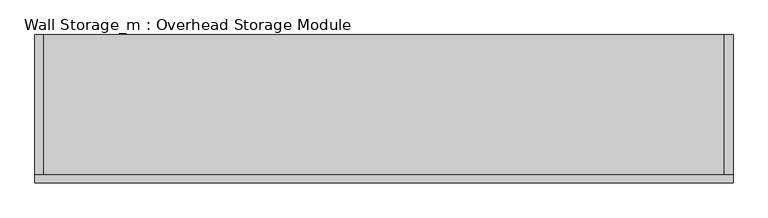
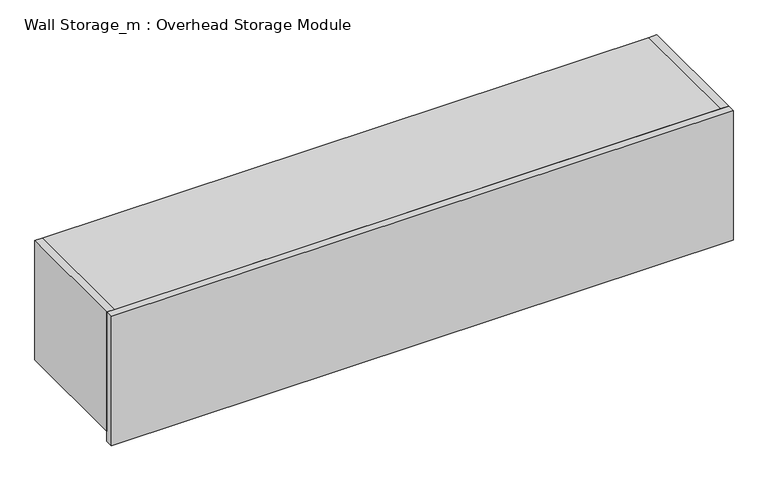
"""IFC4 building model written with IfcOpenShell, lengths in millimetres: furniture geometry, Wall Storage_m : Overhead Storage Module."""

import ifcopenshell
import ifcopenshell.guid

model = None  # the IFC model being written
_history = None  # IfcOwnerHistory: only IFC2X3 demands one
_inside = {}  # id of a spatial element -> (the spatial element, [elements in it])
_under = {}  # id of a project, library or spatial element -> (it, [spatial elements below it])
_declared = {}  # id of a project -> (the project, [libraries it declares])
_typed = {}  # id of a type object -> (the type object, [elements of that type])
_made_of = {}  # id of a material, layer set ... -> (it, [elements and type objects made of it])


def new_model(schema):
    """Start an empty IFC model of exactly this schema.

    Asked for "IFC4X3", IfcOpenShell would pick the latest addendum, in which some entities
    have other attributes; the version numbers below select the first issue.
    IFC2X3 requires an IfcOwnerHistory on every rooted entity: one is made here for all.
    """
    global model, _history
    if schema == "IFC4X3":
        model = ifcopenshell.file(schema_version=(4, 3, 0, 0))
    else:
        model = ifcopenshell.file(schema=schema)
    _inside.clear()
    _under.clear()
    _declared.clear()
    _typed.clear()
    _made_of.clear()
    _history = None
    if model.schema == "IFC2X3":
        org = make("IfcOrganization", Name="unknown")
        user = make(
            "IfcPersonAndOrganization",
            ThePerson=make("IfcPerson", FamilyName="unknown"),
            TheOrganization=org,
        )
        app = make(
            "IfcApplication",
            ApplicationDeveloper=org,
            Version="unknown",
            ApplicationFullName="unknown",
            ApplicationIdentifier="unknown",
        )
        _history = make(
            "IfcOwnerHistory",
            OwningUser=user,
            OwningApplication=app,
            ChangeAction="ADDED",
            CreationDate=0,
        )
    return model


def make(cls, **values):
    """One entity of the class cls with the attributes given. An attribute that is None is left unset."""
    return model.create_entity(
        cls, **{name: value for name, value in values.items() if value is not None}
    )


def rooted(cls, **values):
    """An entity with a GlobalId (a new one), such as an element, a storey or a relation."""
    return make(cls, GlobalId=ifcopenshell.guid.new(), OwnerHistory=_history, **values)


def si_unit(unit_type, name, prefix=None):
    """IfcSIUnit, for example si_unit("LENGTHUNIT", "METRE", prefix="MILLI")."""
    return make("IfcSIUnit", UnitType=unit_type, Prefix=prefix, Name=name)


def assignment(units):
    """IfcUnitAssignment: the units of a project."""
    return None if units is None else make("IfcUnitAssignment", Units=units)


def point(xyz):
    """IfcCartesianPoint."""
    return None if xyz is None else make("IfcCartesianPoint", Coordinates=xyz)


def direction(xyz):
    """IfcDirection."""
    return None if xyz is None else make("IfcDirection", DirectionRatios=xyz)


def frame(location, z_axis=None, x_axis=None):
    """IfcAxis2Placement3D, a coordinate frame: its origin and axes. An axis left out is left unset."""
    return make(
        "IfcAxis2Placement3D",
        Location=point(location),
        Axis=direction(z_axis),
        RefDirection=direction(x_axis),
    )


def origin():
    """The frame at (0, 0, 0) with its axes left unset."""
    return frame((0.0, 0.0, 0.0))


def place(relative_to, where):
    """IfcLocalPlacement: puts the frame where relative to a parent placement (None: the world)."""
    return make(
        "IfcLocalPlacement", PlacementRelTo=relative_to, RelativePlacement=where
    )


def context(
    kind, dimensions, precision=None, world=None, true_north=None, identifier=None
):
    """IfcGeometricRepresentationContext, for example the 3D "Model" context."""
    return make(
        "IfcGeometricRepresentationContext",
        ContextIdentifier=identifier,
        ContextType=kind,
        CoordinateSpaceDimension=dimensions,
        Precision=precision,
        WorldCoordinateSystem=world,
        TrueNorth=true_north,
    )


def project(units=None, contexts=None):
    """IfcProject with its units and contexts."""
    return rooted(
        "IfcProject",
        Name="project",
        RepresentationContexts=contexts,
        UnitsInContext=assignment(units),
    )


def spatial(cls, under=None, at=None, **own):
    """A site, building, storey or space (cls), placed at a placement, below another one or the project."""
    s = rooted(cls, ObjectPlacement=at, **own)
    if under is not None:
        _under.setdefault(under.id(), (under, []))[1].append(s)
    return s


def polyline(points):
    """IfcPolyline through the points."""
    return make("IfcPolyline", Points=[point(p) for p in points])


def outline(outer, holes=None, kind="AREA"):
    """IfcArbitraryClosedProfileDef: a profile drawn as a closed curve; with holes, ...WithVoids."""
    if holes is None:
        return make("IfcArbitraryClosedProfileDef", ProfileType=kind, OuterCurve=outer)
    return make(
        "IfcArbitraryProfileDefWithVoids",
        ProfileType=kind,
        OuterCurve=outer,
        InnerCurves=holes,
    )


def extrude(swept, where, along, depth):
    """IfcExtrudedAreaSolid: the profile swept, set in the frame where, extruded along a direction by depth."""
    return make(
        "IfcExtrudedAreaSolid",
        SweptArea=swept,
        Position=where,
        ExtrudedDirection=direction(along),
        Depth=depth,
    )


def shape(context_of_items, identifier, shape_type, items):
    """IfcShapeRepresentation: the items that make up one representation, for example the "Body"."""
    return make(
        "IfcShapeRepresentation",
        ContextOfItems=context_of_items,
        RepresentationIdentifier=identifier,
        RepresentationType=shape_type,
        Items=items,
    )


def source(mapping_origin, context_of_items, identifier, shape_type, items):
    """IfcRepresentationMap: a shape defined once, which mapped items show again and again."""
    return make(
        "IfcRepresentationMap",
        MappingOrigin=mapping_origin,
        MappedRepresentation=shape(context_of_items, identifier, shape_type, items),
    )


def transform(
    local_origin,
    x_axis=None,
    y_axis=None,
    z_axis=None,
    scale=None,
    scale2=None,
    scale3=None,
    uniform=True,
):
    """IfcCartesianTransformationOperator3D, or its non-uniform kind. x_axis, y_axis, z_axis: its Axis1, 2, 3."""
    if uniform:
        return make(
            "IfcCartesianTransformationOperator3D",
            Axis1=direction(x_axis),
            Axis2=direction(y_axis),
            LocalOrigin=point(local_origin),
            Scale=scale,
            Axis3=direction(z_axis),
        )
    return make(
        "IfcCartesianTransformationOperator3DnonUniform",
        Axis1=direction(x_axis),
        Axis2=direction(y_axis),
        LocalOrigin=point(local_origin),
        Scale=scale,
        Axis3=direction(z_axis),
        Scale2=scale2,
        Scale3=scale3,
    )


def mapped(mapping_source, mapping_target):
    """IfcMappedItem: shows the shape of a source again, moved by a transform."""
    return make(
        "IfcMappedItem", MappingSource=mapping_source, MappingTarget=mapping_target
    )


def made_of(thing, what):
    """Note that an element or type object is made of a material, layer set ...; save() writes the relation."""
    if what is not None:
        _made_of.setdefault(what.id(), (what, []))[1].append(thing)
    return thing


def element(
    cls,
    number,
    at=None,
    inside=None,
    cuts=None,
    type_object=None,
    material=None,
    context=None,
    identifier="Body",
    shape_type=None,
    held_by="IfcProductDefinitionShape",
    body=None,
    shapes=None,
    **own,
):
    """One element of the class cls, such as IfcWall. Its Tag is "e" and its number.

    at: its placement. inside: the storey or other place that contains it. cuts: it is an
    opening in that element (IfcRelVoidsElement). A single representation is given by context,
    identifier, shape_type and body (its items); several are given by shapes. held_by: the class
    of the entity that holds the representations. save() writes the other relations.
    """
    e = rooted(cls, Tag="e%d" % number, ObjectPlacement=at, **own)
    if body is not None:
        shapes = [shape(context, identifier, shape_type, body)]
    if shapes is not None:
        e.Representation = make(held_by, Representations=shapes)
    if inside is not None:
        _inside.setdefault(inside.id(), (inside, []))[1].append(e)
    if cuts is not None:
        rooted(
            "IfcRelVoidsElement", RelatingBuildingElement=cuts, RelatedOpeningElement=e
        )
    if type_object is not None:
        _typed.setdefault(type_object.id(), (type_object, []))[1].append(e)
    return made_of(e, material)


def aggregate(whole, parts):
    """IfcRelAggregates: a whole, such as a stair, and the parts it consists of."""
    return rooted("IfcRelAggregates", RelatingObject=whole, RelatedObjects=parts)


def save(model, path):
    """Write the relations noted so far, then the file.

    IfcRelAggregates (storeys below a building ...), IfcRelContainedInSpatialStructure (elements
    in a storey), IfcRelDefinesByType, IfcRelAssociatesMaterial and IfcRelDeclares: one each for
    every whole, place, type object, material and project.
    """
    for whole, parts in _under.values():
        aggregate(whole, parts)
    for where, things in _inside.values():
        rooted(
            "IfcRelContainedInSpatialStructure",
            RelatedElements=things,
            RelatingStructure=where,
        )
    for kind, things in _typed.values():
        rooted("IfcRelDefinesByType", RelatedObjects=things, RelatingType=kind)
    for what, things in _made_of.values():
        rooted("IfcRelAssociatesMaterial", RelatedObjects=things, RelatingMaterial=what)
    for by, libraries in _declared.values():
        rooted("IfcRelDeclares", RelatingContext=by, RelatedDefinitions=libraries)
    model.write(path)


def wall_storage_m_overhead_storage_module_2a725d0f(model_context):
    return source(origin(), model_context, "Body", "SweptSolid", [
        extrude(outline(polyline([(1654.8, -907.7824704), (1350.0, -907.7824704), (1350.0, -888.7324704), (1350.0, 573.1675296), (1350.0, 592.2175296), (1654.8, 592.2175296), (1654.8, 573.1675296), (1654.8, -888.7324704), (1654.8, -907.7824704)]), holes=[polyline([(1635.75, -888.7324704), (1635.75, 573.1675296), (1369.05, 573.1675296), (1369.05, -888.7324704), (1635.75, -888.7324704)])]), frame((0.0, -66.2363609, 0.0), z_axis=(0.0, 1.0, 0.0), x_axis=(0.0, 0.0, 1.0)), (0.0, 0.0, 1.0), 300.0),
        extrude(outline(polyline([(573.1675296, 214.7136391), (-888.7324704, 214.7136391), (-888.7324704, 233.7636391), (573.1675296, 233.7636391), (573.1675296, 214.7136391)])), frame((0.0, 0.0, 1369.05), z_axis=(0.0, 0.0, 1.0), x_axis=(1.0, 0.0, 0.0)), (0.0, 0.0, 1.0), 266.7),
        extrude(outline(polyline([(592.2175296, -85.2363609), (-907.7824704, -85.2363609), (-907.7824704, -66.2363609), (592.2175296, -66.2363609), (592.2175296, -85.2363609)])), frame((0.0, 0.0, 1324.6), z_axis=(0.0, 0.0, 1.0), x_axis=(1.0, 0.0, 0.0)), (0.0, 0.0, 1.0), 330.2),
    ])


if __name__ == "__main__":
    model = new_model("IFC4")
    model_context = context("Model", 3, world=origin())
    ifc_project = project(units=[si_unit("LENGTHUNIT", "METRE", prefix="MILLI")], contexts=[model_context])
    site = spatial("IfcSite", under=ifc_project)
    building = spatial("IfcBuilding", under=site)
    placement = place(None, origin())
    wall_storage_m_overhead_storage_module_shape = wall_storage_m_overhead_storage_module_2a725d0f(model_context)
    element("IfcFurniture", 1, ObjectType="Wall Storage_m : Overhead Storage Module", at=placement, inside=building, context=model_context, shape_type="MappedRepresentation", body=[
        mapped(wall_storage_m_overhead_storage_module_shape, transform((0.0, 0.0, 0.0), x_axis=(1.0, 0.0, 0.0), y_axis=(0.0, 1.0, 0.0), z_axis=(0.0, 0.0, 1.0))),
    ])
    save(model, "model.ifc")
